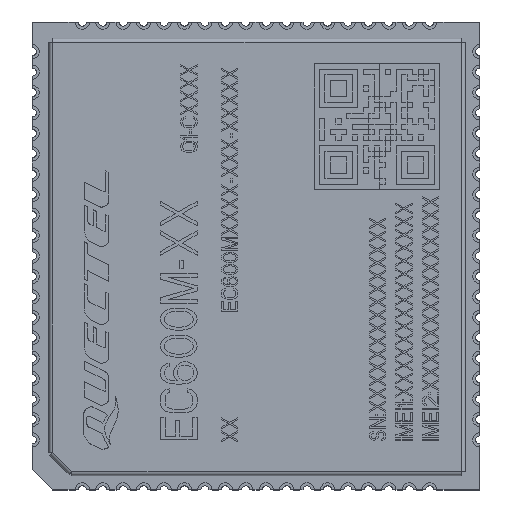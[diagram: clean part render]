
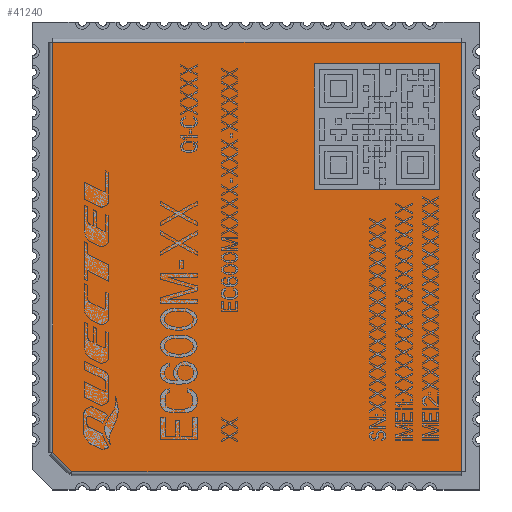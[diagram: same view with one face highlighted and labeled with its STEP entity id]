
A CAD part, top view. The second image highlights one B-rep face of the part: STEP entity #41240.
In plain terms, the highlighted planar face has unit normal (0, 0, 1).
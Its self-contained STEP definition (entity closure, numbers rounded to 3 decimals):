
#36053=DIRECTION('',(0.,1.,0.));
#36054=VECTOR('',#36053,6.16);
#36055=CARTESIAN_POINT('',(19.9,14.74,0.));
#36056=LINE('',#36055,#36054);
#36060=DIRECTION('',(0.,-1.,0.));
#36061=VECTOR('',#36060,6.16);
#36062=CARTESIAN_POINT('',(13.74,20.9,0.));
#36063=LINE('',#36062,#36061);
#36361=DIRECTION('',(0.,-1.,0.));
#36362=VECTOR('',#36361,21.);
#36363=CARTESIAN_POINT('',(20.95,21.95,0.));
#36364=LINE('',#36363,#36362);
#36510=DIRECTION('',(-1.,0.,0.));
#36511=VECTOR('',#36510,19.058);
#36512=CARTESIAN_POINT('',(20.95,0.95,0.));
#36513=LINE('',#36512,#36511);
#36853=DIRECTION('',(1.,0.,0.));
#36854=VECTOR('',#36853,20.);
#36855=CARTESIAN_POINT('',(0.95,21.95,0.));
#36856=LINE('',#36855,#36854);
#36860=DIRECTION('',(0.,1.,0.));
#36861=VECTOR('',#36860,20.058);
#36862=CARTESIAN_POINT('',(0.95,1.892,0.));
#36863=LINE('',#36862,#36861);
#36867=DIRECTION('',(-0.707,0.707,0.));
#36868=VECTOR('',#36867,1.332);
#36869=CARTESIAN_POINT('',(1.892,0.95,0.));
#36870=LINE('',#36869,#36868);
#39213=DIRECTION('',(1.,0.,0.));
#39214=VECTOR('',#39213,6.16);
#39215=CARTESIAN_POINT('',(13.74,20.9,0.));
#39216=LINE('',#39215,#39214);
#39248=DIRECTION('',(-1.,0.,0.));
#39249=VECTOR('',#39248,6.16);
#39250=CARTESIAN_POINT('',(19.9,14.74,0.));
#39251=LINE('',#39250,#39249);
#40261=CARTESIAN_POINT('',(0.95,1.892,0.));
#40262=CARTESIAN_POINT('',(0.95,21.95,0.));
#40263=VERTEX_POINT('',#40261);
#40264=VERTEX_POINT('',#40262);
#40275=CARTESIAN_POINT('',(1.892,0.95,0.));
#40276=VERTEX_POINT('',#40275);
#40287=CARTESIAN_POINT('',(20.95,21.95,0.));
#40288=CARTESIAN_POINT('',(20.95,0.95,0.));
#40289=VERTEX_POINT('',#40287);
#40290=VERTEX_POINT('',#40288);
#40521=CARTESIAN_POINT('',(13.74,20.9,0.));
#40522=CARTESIAN_POINT('',(13.74,14.74,0.));
#40523=VERTEX_POINT('',#40521);
#40524=VERTEX_POINT('',#40522);
#41075=CARTESIAN_POINT('',(19.9,14.74,0.));
#41076=CARTESIAN_POINT('',(19.9,20.9,0.));
#41077=VERTEX_POINT('',#41075);
#41078=VERTEX_POINT('',#41076);
#41213=CARTESIAN_POINT('',(0.,0.,0.));
#41214=DIRECTION('',(0.,0.,1.));
#41215=DIRECTION('',(0.,1.,0.));
#41216=AXIS2_PLACEMENT_3D('',#41213,#41214,#41215);
#41217=PLANE('',#41216);
#41219=ORIENTED_EDGE('',*,*,#41218,.T.);
#41221=ORIENTED_EDGE('',*,*,#41220,.T.);
#41223=ORIENTED_EDGE('',*,*,#41222,.T.);
#41225=ORIENTED_EDGE('',*,*,#41224,.T.);
#41227=ORIENTED_EDGE('',*,*,#41226,.T.);
#41228=EDGE_LOOP('',(#41219,#41221,#41223,#41225,#41227));
#41229=FACE_OUTER_BOUND('',#41228,.F.);
#41231=ORIENTED_EDGE('',*,*,#41230,.F.);
#41233=ORIENTED_EDGE('',*,*,#41232,.T.);
#41235=ORIENTED_EDGE('',*,*,#41234,.F.);
#41237=ORIENTED_EDGE('',*,*,#41236,.T.);
#41238=EDGE_LOOP('',(#41231,#41233,#41235,#41237));
#41239=FACE_BOUND('',#41238,.F.);
#41218=EDGE_CURVE('',#40289,#40290,#36364,.T.);
#41220=EDGE_CURVE('',#40290,#40276,#36513,.T.);
#41222=EDGE_CURVE('',#40276,#40263,#36870,.T.);
#41224=EDGE_CURVE('',#40263,#40264,#36863,.T.);
#41226=EDGE_CURVE('',#40264,#40289,#36856,.T.);
#41230=EDGE_CURVE('',#41077,#40524,#39251,.T.);
#41232=EDGE_CURVE('',#41077,#41078,#36056,.T.);
#41234=EDGE_CURVE('',#40523,#41078,#39216,.T.);
#41236=EDGE_CURVE('',#40523,#40524,#36063,.T.);
#41240=ADVANCED_FACE('',(#41229,#41239),#41217,.T.);
